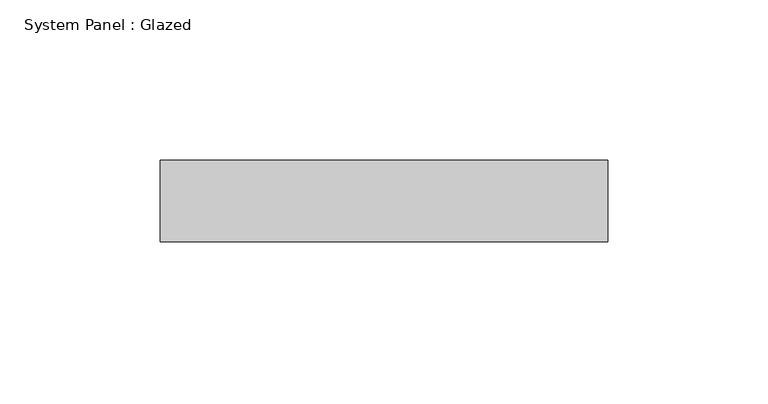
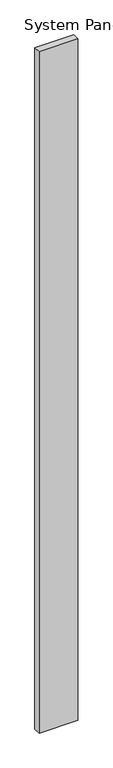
"""IFC4 building model written with IfcOpenShell, lengths in millimetres: plate geometry, System Panel : Glazed."""

import ifcopenshell
import ifcopenshell.guid

model = None  # the IFC model being written
_history = None  # IfcOwnerHistory: only IFC2X3 demands one
_inside = {}  # id of a spatial element -> (the spatial element, [elements in it])
_under = {}  # id of a project, library or spatial element -> (it, [spatial elements below it])
_declared = {}  # id of a project -> (the project, [libraries it declares])
_typed = {}  # id of a type object -> (the type object, [elements of that type])
_made_of = {}  # id of a material, layer set ... -> (it, [elements and type objects made of it])


def new_model(schema):
    """Start an empty IFC model of exactly this schema.

    Asked for "IFC4X3", IfcOpenShell would pick the latest addendum, in which some entities
    have other attributes; the version numbers below select the first issue.
    IFC2X3 requires an IfcOwnerHistory on every rooted entity: one is made here for all.
    """
    global model, _history
    if schema == "IFC4X3":
        model = ifcopenshell.file(schema_version=(4, 3, 0, 0))
    else:
        model = ifcopenshell.file(schema=schema)
    _inside.clear()
    _under.clear()
    _declared.clear()
    _typed.clear()
    _made_of.clear()
    _history = None
    if model.schema == "IFC2X3":
        org = make("IfcOrganization", Name="unknown")
        user = make(
            "IfcPersonAndOrganization",
            ThePerson=make("IfcPerson", FamilyName="unknown"),
            TheOrganization=org,
        )
        app = make(
            "IfcApplication",
            ApplicationDeveloper=org,
            Version="unknown",
            ApplicationFullName="unknown",
            ApplicationIdentifier="unknown",
        )
        _history = make(
            "IfcOwnerHistory",
            OwningUser=user,
            OwningApplication=app,
            ChangeAction="ADDED",
            CreationDate=0,
        )
    return model


def make(cls, **values):
    """One entity of the class cls with the attributes given. An attribute that is None is left unset."""
    return model.create_entity(
        cls, **{name: value for name, value in values.items() if value is not None}
    )


def rooted(cls, **values):
    """An entity with a GlobalId (a new one), such as an element, a storey or a relation."""
    return make(cls, GlobalId=ifcopenshell.guid.new(), OwnerHistory=_history, **values)


def si_unit(unit_type, name, prefix=None):
    """IfcSIUnit, for example si_unit("LENGTHUNIT", "METRE", prefix="MILLI")."""
    return make("IfcSIUnit", UnitType=unit_type, Prefix=prefix, Name=name)


def assignment(units):
    """IfcUnitAssignment: the units of a project."""
    return None if units is None else make("IfcUnitAssignment", Units=units)


def point(xyz):
    """IfcCartesianPoint."""
    return None if xyz is None else make("IfcCartesianPoint", Coordinates=xyz)


def direction(xyz):
    """IfcDirection."""
    return None if xyz is None else make("IfcDirection", DirectionRatios=xyz)


def frame(location, z_axis=None, x_axis=None):
    """IfcAxis2Placement3D, a coordinate frame: its origin and axes. An axis left out is left unset."""
    return make(
        "IfcAxis2Placement3D",
        Location=point(location),
        Axis=direction(z_axis),
        RefDirection=direction(x_axis),
    )


def origin():
    """The frame at (0, 0, 0) with its axes left unset."""
    return frame((0.0, 0.0, 0.0))


def origin_with_axes():
    """The frame at (0, 0, 0) with the z axis (0, 0, 1) and the x axis (1, 0, 0) written out."""
    return frame((0.0, 0.0, 0.0), z_axis=(0.0, 0.0, 1.0), x_axis=(1.0, 0.0, 0.0))


def place(relative_to, where):
    """IfcLocalPlacement: puts the frame where relative to a parent placement (None: the world)."""
    return make(
        "IfcLocalPlacement", PlacementRelTo=relative_to, RelativePlacement=where
    )


def context(
    kind, dimensions, precision=None, world=None, true_north=None, identifier=None
):
    """IfcGeometricRepresentationContext, for example the 3D "Model" context."""
    return make(
        "IfcGeometricRepresentationContext",
        ContextIdentifier=identifier,
        ContextType=kind,
        CoordinateSpaceDimension=dimensions,
        Precision=precision,
        WorldCoordinateSystem=world,
        TrueNorth=true_north,
    )


def project(units=None, contexts=None):
    """IfcProject with its units and contexts."""
    return rooted(
        "IfcProject",
        Name="project",
        RepresentationContexts=contexts,
        UnitsInContext=assignment(units),
    )


def spatial(cls, under=None, at=None, **own):
    """A site, building, storey or space (cls), placed at a placement, below another one or the project."""
    s = rooted(cls, ObjectPlacement=at, **own)
    if under is not None:
        _under.setdefault(under.id(), (under, []))[1].append(s)
    return s


def polyline(points):
    """IfcPolyline through the points."""
    return make("IfcPolyline", Points=[point(p) for p in points])


def outline(outer, holes=None, kind="AREA"):
    """IfcArbitraryClosedProfileDef: a profile drawn as a closed curve; with holes, ...WithVoids."""
    if holes is None:
        return make("IfcArbitraryClosedProfileDef", ProfileType=kind, OuterCurve=outer)
    return make(
        "IfcArbitraryProfileDefWithVoids",
        ProfileType=kind,
        OuterCurve=outer,
        InnerCurves=holes,
    )


def extrude(swept, where, along, depth):
    """IfcExtrudedAreaSolid: the profile swept, set in the frame where, extruded along a direction by depth."""
    return make(
        "IfcExtrudedAreaSolid",
        SweptArea=swept,
        Position=where,
        ExtrudedDirection=direction(along),
        Depth=depth,
    )


def shape(context_of_items, identifier, shape_type, items):
    """IfcShapeRepresentation: the items that make up one representation, for example the "Body"."""
    return make(
        "IfcShapeRepresentation",
        ContextOfItems=context_of_items,
        RepresentationIdentifier=identifier,
        RepresentationType=shape_type,
        Items=items,
    )


def source(mapping_origin, context_of_items, identifier, shape_type, items):
    """IfcRepresentationMap: a shape defined once, which mapped items show again and again."""
    return make(
        "IfcRepresentationMap",
        MappingOrigin=mapping_origin,
        MappedRepresentation=shape(context_of_items, identifier, shape_type, items),
    )


def transform(
    local_origin,
    x_axis=None,
    y_axis=None,
    z_axis=None,
    scale=None,
    scale2=None,
    scale3=None,
    uniform=True,
):
    """IfcCartesianTransformationOperator3D, or its non-uniform kind. x_axis, y_axis, z_axis: its Axis1, 2, 3."""
    if uniform:
        return make(
            "IfcCartesianTransformationOperator3D",
            Axis1=direction(x_axis),
            Axis2=direction(y_axis),
            LocalOrigin=point(local_origin),
            Scale=scale,
            Axis3=direction(z_axis),
        )
    return make(
        "IfcCartesianTransformationOperator3DnonUniform",
        Axis1=direction(x_axis),
        Axis2=direction(y_axis),
        LocalOrigin=point(local_origin),
        Scale=scale,
        Axis3=direction(z_axis),
        Scale2=scale2,
        Scale3=scale3,
    )


def mapped(mapping_source, mapping_target):
    """IfcMappedItem: shows the shape of a source again, moved by a transform."""
    return make(
        "IfcMappedItem", MappingSource=mapping_source, MappingTarget=mapping_target
    )


def made_of(thing, what):
    """Note that an element or type object is made of a material, layer set ...; save() writes the relation."""
    if what is not None:
        _made_of.setdefault(what.id(), (what, []))[1].append(thing)
    return thing


def element(
    cls,
    number,
    at=None,
    inside=None,
    cuts=None,
    type_object=None,
    material=None,
    context=None,
    identifier="Body",
    shape_type=None,
    held_by="IfcProductDefinitionShape",
    body=None,
    shapes=None,
    **own,
):
    """One element of the class cls, such as IfcWall. Its Tag is "e" and its number.

    at: its placement. inside: the storey or other place that contains it. cuts: it is an
    opening in that element (IfcRelVoidsElement). A single representation is given by context,
    identifier, shape_type and body (its items); several are given by shapes. held_by: the class
    of the entity that holds the representations. save() writes the other relations.
    """
    e = rooted(cls, Tag="e%d" % number, ObjectPlacement=at, **own)
    if body is not None:
        shapes = [shape(context, identifier, shape_type, body)]
    if shapes is not None:
        e.Representation = make(held_by, Representations=shapes)
    if inside is not None:
        _inside.setdefault(inside.id(), (inside, []))[1].append(e)
    if cuts is not None:
        rooted(
            "IfcRelVoidsElement", RelatingBuildingElement=cuts, RelatedOpeningElement=e
        )
    if type_object is not None:
        _typed.setdefault(type_object.id(), (type_object, []))[1].append(e)
    return made_of(e, material)


def aggregate(whole, parts):
    """IfcRelAggregates: a whole, such as a stair, and the parts it consists of."""
    return rooted("IfcRelAggregates", RelatingObject=whole, RelatedObjects=parts)


def save(model, path):
    """Write the relations noted so far, then the file.

    IfcRelAggregates (storeys below a building ...), IfcRelContainedInSpatialStructure (elements
    in a storey), IfcRelDefinesByType, IfcRelAssociatesMaterial and IfcRelDeclares: one each for
    every whole, place, type object, material and project.
    """
    for whole, parts in _under.values():
        aggregate(whole, parts)
    for where, things in _inside.values():
        rooted(
            "IfcRelContainedInSpatialStructure",
            RelatedElements=things,
            RelatingStructure=where,
        )
    for kind, things in _typed.values():
        rooted("IfcRelDefinesByType", RelatedObjects=things, RelatingType=kind)
    for what, things in _made_of.values():
        rooted("IfcRelAssociatesMaterial", RelatedObjects=things, RelatingMaterial=what)
    for by, libraries in _declared.values():
        rooted("IfcRelDeclares", RelatingContext=by, RelatedDefinitions=libraries)
    model.write(path)


def system_panel_glazed_a3432af0(model_context):
    return source(origin(), model_context, "Body", "SweptSolid", [
        extrude(outline(polyline([(69.649919, 19.05), (-69.649919, 19.05), (-69.649919, 44.45), (69.649919, 44.45), (69.649919, 19.05)])), origin_with_axes(), (0.0, 0.0, 1.0), 2578.1),
    ])


if __name__ == "__main__":
    model = new_model("IFC4")
    model_context = context("Model", 3, world=origin())
    ifc_project = project(units=[si_unit("LENGTHUNIT", "METRE", prefix="MILLI")], contexts=[model_context])
    site = spatial("IfcSite", under=ifc_project)
    building = spatial("IfcBuilding", under=site)
    placement = place(None, origin())
    system_panel_glazed_shape = system_panel_glazed_a3432af0(model_context)
    element("IfcPlate", 1, ObjectType="System Panel : Glazed", at=placement, inside=building, context=model_context, shape_type="MappedRepresentation", body=[
        mapped(system_panel_glazed_shape, transform((0.0, 0.0, 0.0), x_axis=(1.0, 0.0, 0.0), y_axis=(0.0, 1.0, 0.0), z_axis=(0.0, 0.0, 1.0))),
    ])
    save(model, "model.ifc")
